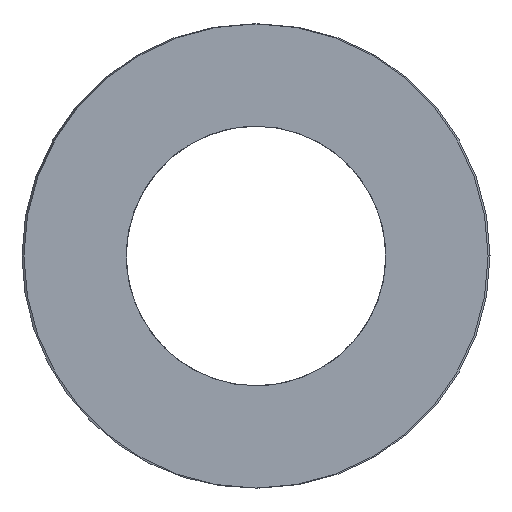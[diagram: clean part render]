
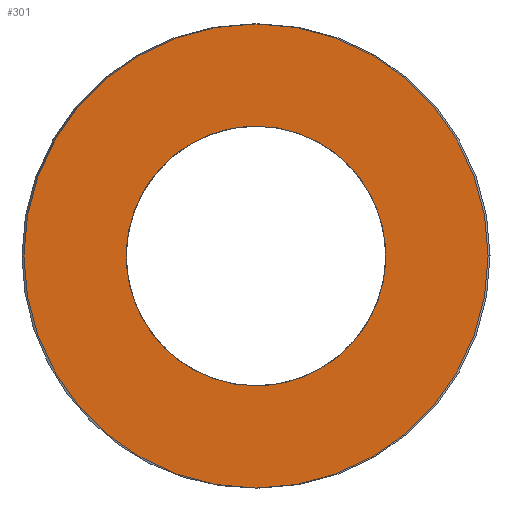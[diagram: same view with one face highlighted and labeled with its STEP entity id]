
A CAD part, left-side view. The second image highlights one B-rep face of the part: STEP entity #301.
In plain terms, the highlighted planar face has unit normal (-1, 0, 0).
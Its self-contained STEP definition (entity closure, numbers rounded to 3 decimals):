
#63=CARTESIAN_POINT('Vertex',(0.,12.25,0.)) ;
#77=CARTESIAN_POINT('Vertex',(0.,-12.25,0.)) ;
#80=CARTESIAN_POINT('Axis2P3D Location',(0.,0.,0.)) ;
#97=CARTESIAN_POINT('Axis2P3D Location',(0.,0.,0.)) ;
#232=CARTESIAN_POINT('Axis2P3D Location',(0.,6.125,0.)) ;
#242=CARTESIAN_POINT('Control Point',(0.,0.,-6.85)) ;
#243=CARTESIAN_POINT('Control Point',(0.,0.641,-6.85)) ;
#244=CARTESIAN_POINT('Control Point',(0.,1.282,-6.775)) ;
#245=CARTESIAN_POINT('Control Point',(0.,1.912,-6.625)) ;
#246=CARTESIAN_POINT('Control Point',(0.,3.124,-6.181)) ;
#247=CARTESIAN_POINT('Control Point',(0.,4.2,-5.468)) ;
#248=CARTESIAN_POINT('Control Point',(0.,4.694,-5.051)) ;
#249=CARTESIAN_POINT('Control Point',(0.,5.576,-4.107)) ;
#250=CARTESIAN_POINT('Control Point',(0.,6.215,-2.986)) ;
#251=CARTESIAN_POINT('Control Point',(0.,6.468,-2.39)) ;
#252=CARTESIAN_POINT('Control Point',(0.,6.829,-1.151)) ;
#253=CARTESIAN_POINT('Control Point',(0.,6.894,0.139)) ;
#254=CARTESIAN_POINT('Control Point',(0.,6.851,0.784)) ;
#255=CARTESIAN_POINT('Control Point',(0.,6.614,2.053)) ;
#256=CARTESIAN_POINT('Control Point',(0.,6.09,3.233)) ;
#257=CARTESIAN_POINT('Control Point',(0.,5.76,3.79)) ;
#258=CARTESIAN_POINT('Control Point',(0.,4.977,4.816)) ;
#259=CARTESIAN_POINT('Control Point',(0.,3.977,5.633)) ;
#260=CARTESIAN_POINT('Control Point',(0.,3.432,5.981)) ;
#261=CARTESIAN_POINT('Control Point',(0.,2.436,6.462)) ;
#262=CARTESIAN_POINT('Control Point',(0.,1.368,6.735)) ;
#263=CARTESIAN_POINT('Control Point',(0.,0.915,6.812)) ;
#264=CARTESIAN_POINT('Control Point',(0.,0.457,6.85)) ;
#265=CARTESIAN_POINT('Control Point',(0.,0.,6.85)) ;
#266=CARTESIAN_POINT('Vertex',(0.,0.,-6.85)) ;
#268=CARTESIAN_POINT('Vertex',(0.,0.,6.85)) ;
#272=CARTESIAN_POINT('Control Point',(0.,0.,6.85)) ;
#273=CARTESIAN_POINT('Control Point',(0.,-0.641,6.85)) ;
#274=CARTESIAN_POINT('Control Point',(0.,-1.282,6.775)) ;
#275=CARTESIAN_POINT('Control Point',(0.,-1.912,6.625)) ;
#276=CARTESIAN_POINT('Control Point',(0.,-3.124,6.181)) ;
#277=CARTESIAN_POINT('Control Point',(0.,-4.2,5.468)) ;
#278=CARTESIAN_POINT('Control Point',(0.,-4.694,5.051)) ;
#279=CARTESIAN_POINT('Control Point',(0.,-5.576,4.107)) ;
#280=CARTESIAN_POINT('Control Point',(0.,-6.215,2.986)) ;
#281=CARTESIAN_POINT('Control Point',(0.,-6.468,2.39)) ;
#282=CARTESIAN_POINT('Control Point',(0.,-6.829,1.151)) ;
#283=CARTESIAN_POINT('Control Point',(0.,-6.894,-0.139)) ;
#284=CARTESIAN_POINT('Control Point',(0.,-6.851,-0.784)) ;
#285=CARTESIAN_POINT('Control Point',(0.,-6.614,-2.053)) ;
#286=CARTESIAN_POINT('Control Point',(0.,-6.09,-3.233)) ;
#287=CARTESIAN_POINT('Control Point',(0.,-5.76,-3.79)) ;
#288=CARTESIAN_POINT('Control Point',(0.,-4.977,-4.816)) ;
#289=CARTESIAN_POINT('Control Point',(0.,-3.977,-5.633)) ;
#290=CARTESIAN_POINT('Control Point',(0.,-3.432,-5.981)) ;
#291=CARTESIAN_POINT('Control Point',(0.,-2.436,-6.462)) ;
#292=CARTESIAN_POINT('Control Point',(0.,-1.368,-6.735)) ;
#293=CARTESIAN_POINT('Control Point',(0.,-0.915,-6.812)) ;
#294=CARTESIAN_POINT('Control Point',(0.,-0.457,-6.85)) ;
#295=CARTESIAN_POINT('Control Point',(0.,0.,-6.85)) ;
#81=DIRECTION('Axis2P3D Direction',(1.,-0.,0.)) ;
#98=DIRECTION('Axis2P3D Direction',(1.,-0.,0.)) ;
#233=DIRECTION('Axis2P3D Direction',(-1.,0.,0.)) ;
#234=DIRECTION('Axis2P3D XDirection',(0.,1.,0.)) ;
#82=AXIS2_PLACEMENT_3D('Circle Axis2P3D',#80,#81,$) ;
#99=AXIS2_PLACEMENT_3D('Circle Axis2P3D',#97,#98,$) ;
#235=AXIS2_PLACEMENT_3D('Plane Axis2P3D',#232,#233,#234) ;
#238=ORIENTED_EDGE('',*,*,#84,.T.) ;
#239=ORIENTED_EDGE('',*,*,#101,.T.) ;
#298=ORIENTED_EDGE('',*,*,#270,.T.) ;
#299=ORIENTED_EDGE('',*,*,#296,.T.) ;
#300=FACE_BOUND('',#297,.T.) ;
#301=ADVANCED_FACE('392-B25-305',(#240,#300),#236,.T.) ;
#241=B_SPLINE_CURVE_WITH_KNOTS('',5,(#242,#243,#244,#245,#246,#247,#248,#249,#250,#251,#252,#253,#254,#255,#256,#257,#258,#259,#260,#261,#262,#263,#264,#265),.UNSPECIFIED.,.F.,.U.,(6,3,3,3,3,3,3,6),(0.,4.533,9.066,13.6,18.133,22.666,27.199,30.433),.UNSPECIFIED.) ;
#271=B_SPLINE_CURVE_WITH_KNOTS('',5,(#272,#273,#274,#275,#276,#277,#278,#279,#280,#281,#282,#283,#284,#285,#286,#287,#288,#289,#290,#291,#292,#293,#294,#295),.UNSPECIFIED.,.F.,.U.,(6,3,3,3,3,3,3,6),(0.,4.533,9.066,13.6,18.133,22.666,27.199,30.433),.UNSPECIFIED.) ;
#83=CIRCLE('generated circle',#82,12.25) ;
#100=CIRCLE('generated circle',#99,12.25) ;
#84=EDGE_CURVE('',#64,#78,#83,.F.) ;
#101=EDGE_CURVE('',#78,#64,#100,.F.) ;
#270=EDGE_CURVE('',#267,#269,#241,.T.) ;
#296=EDGE_CURVE('',#269,#267,#271,.T.) ;
#237=EDGE_LOOP('',(#238,#239)) ;
#297=EDGE_LOOP('',(#298,#299)) ;
#240=FACE_OUTER_BOUND('',#237,.T.) ;
#236=PLANE('Plane',#235) ;
#64=VERTEX_POINT('',#63) ;
#78=VERTEX_POINT('',#77) ;
#267=VERTEX_POINT('',#266) ;
#269=VERTEX_POINT('',#268) ;
